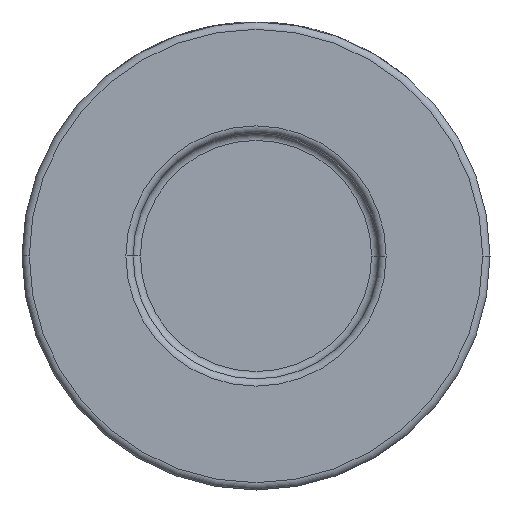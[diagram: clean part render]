
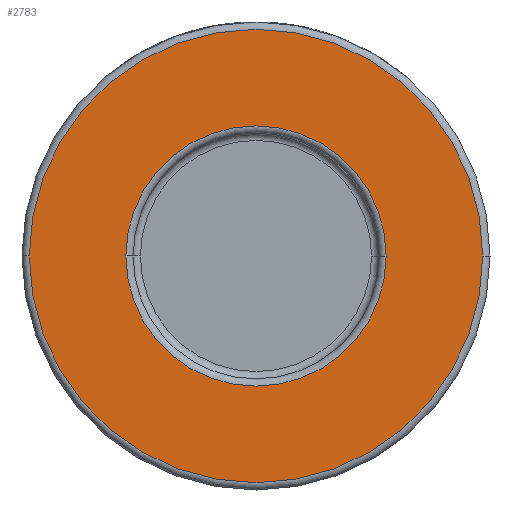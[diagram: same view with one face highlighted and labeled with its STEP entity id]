
A CAD part, front view. The second image highlights one B-rep face of the part: STEP entity #2783.
In plain terms, the highlighted planar face has unit normal (0, -1, 0).
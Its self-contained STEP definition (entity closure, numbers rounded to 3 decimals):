
#6 = CIRCLE ( 'NONE', #673, 17.8 ) ;
#126 = CARTESIAN_POINT ( 'NONE',  ( 0., -21., 0. ) ) ;
#140 = CARTESIAN_POINT ( 'NONE',  ( 0., -21., 0. ) ) ;
#223 = DIRECTION ( 'NONE',  ( 1., 0., 0. ) ) ;
#561 = ORIENTED_EDGE ( 'NONE', *, *, #2765, .T. ) ;
#613 = CARTESIAN_POINT ( 'NONE',  ( 0., -21., 0. ) ) ;
#673 = AXIS2_PLACEMENT_3D ( 'NONE', #613, #3139, #4452 ) ;
#720 = ORIENTED_EDGE ( 'NONE', *, *, #4001, .T. ) ;
#1026 = FACE_OUTER_BOUND ( 'NONE', #3542, .T. ) ;
#1048 = CARTESIAN_POINT ( 'NONE',  ( 32., -21., 0. ) ) ;
#1086 = ORIENTED_EDGE ( 'NONE', *, *, #2669, .T. ) ;
#1105 = AXIS2_PLACEMENT_3D ( 'NONE', #126, #3377, #223 ) ;
#1136 = ORIENTED_EDGE ( 'NONE', *, *, #1939, .T. ) ;
#1586 = DIRECTION ( 'NONE',  ( 1., 0., 0. ) ) ;
#1644 = AXIS2_PLACEMENT_3D ( 'NONE', #140, #3327, #1586 ) ;
#1693 = CARTESIAN_POINT ( 'NONE',  ( 17.8, -21., 0. ) ) ;
#1745 = DIRECTION ( 'NONE',  ( 1., 0., 0. ) ) ;
#1805 = CARTESIAN_POINT ( 'NONE',  ( -17.8, -21., 0. ) ) ;
#1855 = CIRCLE ( 'NONE', #1644, 31. ) ;
#1939 = EDGE_CURVE ( 'NONE', #4206, #2232, #3093, .T. ) ;
#2023 = PLANE ( 'NONE',  #2949 ) ;
#2037 = CARTESIAN_POINT ( 'NONE',  ( 31., -21., 0. ) ) ;
#2154 = CARTESIAN_POINT ( 'NONE',  ( -31., -21., 0. ) ) ;
#2232 = VERTEX_POINT ( 'NONE', #2037 ) ;
#2406 = CARTESIAN_POINT ( 'NONE',  ( 0., -21., 0. ) ) ;
#2451 = DIRECTION ( 'NONE',  ( 0., -1., 0. ) ) ;
#2669 = EDGE_CURVE ( 'NONE', #4332, #4162, #4485, .T. ) ;
#2765 = EDGE_CURVE ( 'NONE', #4162, #4332, #6, .T. ) ;
#2769 = FACE_BOUND ( 'NONE', #3959, .T. ) ;
#2783 = ADVANCED_FACE ( 'NONE', ( #2769, #1026 ), #2023, .T. ) ;
#2949 = AXIS2_PLACEMENT_3D ( 'NONE', #1048, #2451, #4111 ) ;
#3093 = CIRCLE ( 'NONE', #4555, 31. ) ;
#3139 = DIRECTION ( 'NONE',  ( 0., 1., 0. ) ) ;
#3158 = DIRECTION ( 'NONE',  ( 0., -1., 0. ) ) ;
#3327 = DIRECTION ( 'NONE',  ( 0., -1., 0. ) ) ;
#3377 = DIRECTION ( 'NONE',  ( 0., 1., 0. ) ) ;
#3542 = EDGE_LOOP ( 'NONE', ( #720, #1136 ) ) ;
#3959 = EDGE_LOOP ( 'NONE', ( #1086, #561 ) ) ;
#4001 = EDGE_CURVE ( 'NONE', #2232, #4206, #1855, .T. ) ;
#4111 = DIRECTION ( 'NONE',  ( 1., 0., 0. ) ) ;
#4162 = VERTEX_POINT ( 'NONE', #1805 ) ;
#4206 = VERTEX_POINT ( 'NONE', #2154 ) ;
#4332 = VERTEX_POINT ( 'NONE', #1693 ) ;
#4452 = DIRECTION ( 'NONE',  ( 1., 0., 0. ) ) ;
#4485 = CIRCLE ( 'NONE', #1105, 17.8 ) ;
#4555 = AXIS2_PLACEMENT_3D ( 'NONE', #2406, #3158, #1745 ) ;
